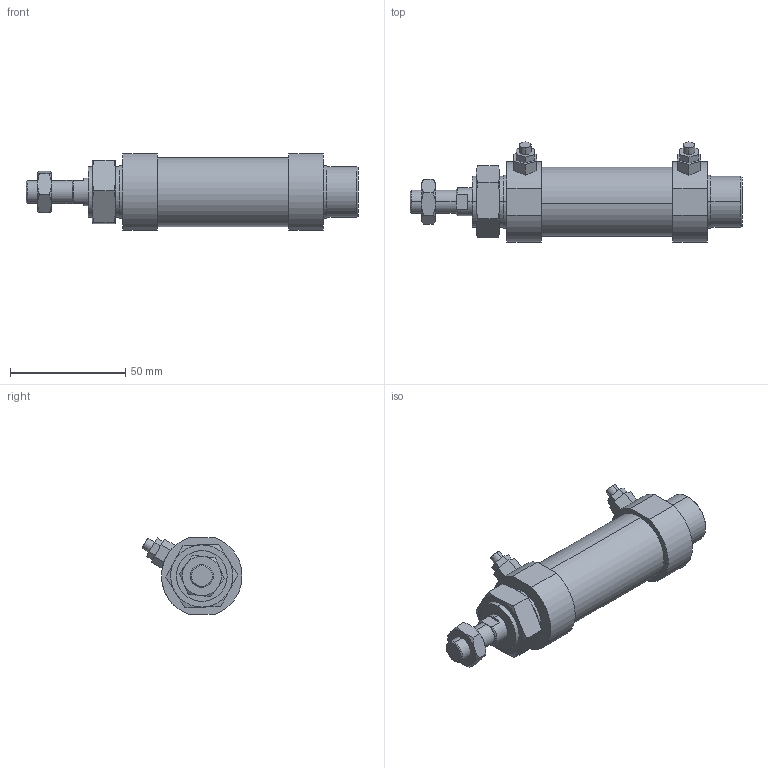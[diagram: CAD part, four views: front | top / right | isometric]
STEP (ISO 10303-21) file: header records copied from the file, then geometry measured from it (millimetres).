
FILE_DESCRIPTION (( 'STEP AP203' ), '1' );
FILE_NAME ('JG2-25-25-N.STEP', '2016-04-19T00:48:44', ( '' ), ( '' ), 'SwSTEP 2.0', 'SolidWorks 2014', '' );
FILE_SCHEMA (( 'CONFIG_CONTROL_DESIGN' ));
Length unit declared in the file: millimetre
Products named in the file (6): M10x1.5-6mm; JG2-25A; M22x1.5-10mm; JG2-25B; 25-25; JG2-25-25-N
Assembly tree (5 placements, depth 2):
  JG2-25-25-N
    JG2-25B
    25-25
    JG2-25A
    M10x1.5-6mm
    M22x1.5-10mm
Bounding box: 144 x 43.37 x 33 mm (x, y, z)
Volume: 86237.2 mm3; surface area: 21102.9 mm2
Topology: 5 solids, 5 shells, 137 faces, 306 edges, 190 vertices
Faces by surface type: plane 69, cylinder 30, torus 24, cone 14
Entity records: 4722 total; most frequent: CARTESIAN_POINT 1109, DIRECTION 630, ORIENTED_EDGE 604, EDGE_CURVE 302, AXIS2_PLACEMENT_3D 247, VERTEX_POINT 190, EDGE_LOOP 156, ADVANCED_FACE 137
